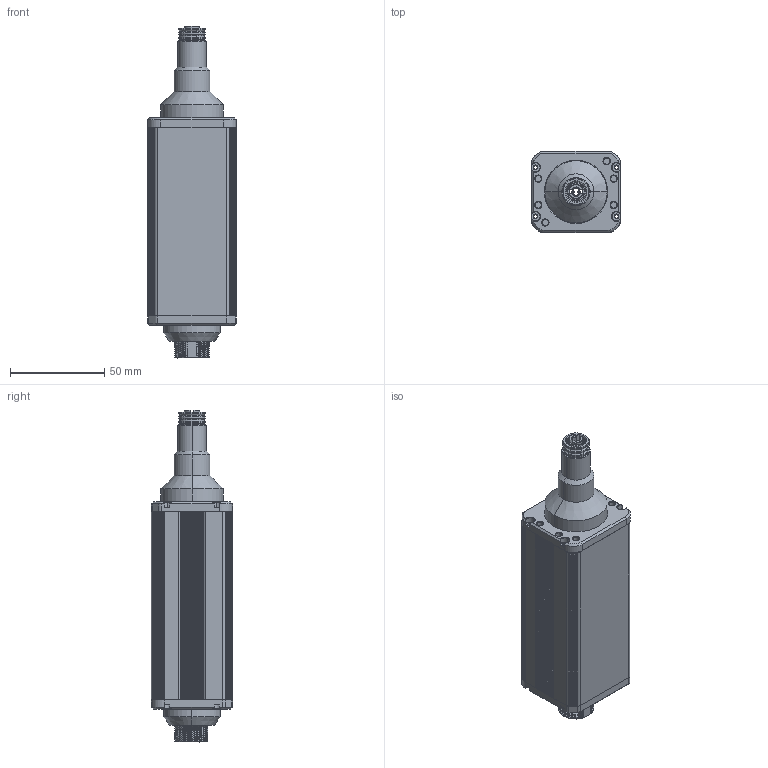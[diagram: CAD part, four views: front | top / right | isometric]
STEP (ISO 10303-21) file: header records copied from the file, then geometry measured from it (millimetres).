
FILE_DESCRIPTION (( 'STEP AP203' ), '1' );
FILE_NAME ('ZEDA-DE-MA4-0100.STEP', '2026-06-04T03:23:56', ( 'Windows User' ), ( 'P R C' ), 'SwSTEP 2.0', 'SolidWorks 2025', '' );
FILE_SCHEMA (( 'CONFIG_CONTROL_DESIGN' ));
Length unit declared in the file: millimetre
Products named in the file (1): ZEDA-DE-MA4-0100
Bounding box: 47 x 43 x 176.15 mm (x, y, z)
Surface area: 33421.4 mm2 (no closed solid volume)
Topology: 0 solids, 19 shells, 483 faces, 1517 edges, 1027 vertices
Faces by surface type: cylinder 268, plane 88, cone 71, bspline 30, torus 26
Entity records: 31598 total; most frequent: CARTESIAN_POINT 18453, DIRECTION 2844, ORIENTED_EDGE 2564, EDGE_CURVE 1517, AXIS2_PLACEMENT_3D 1117, VERTEX_POINT 1027, CIRCLE 663, LINE 610
